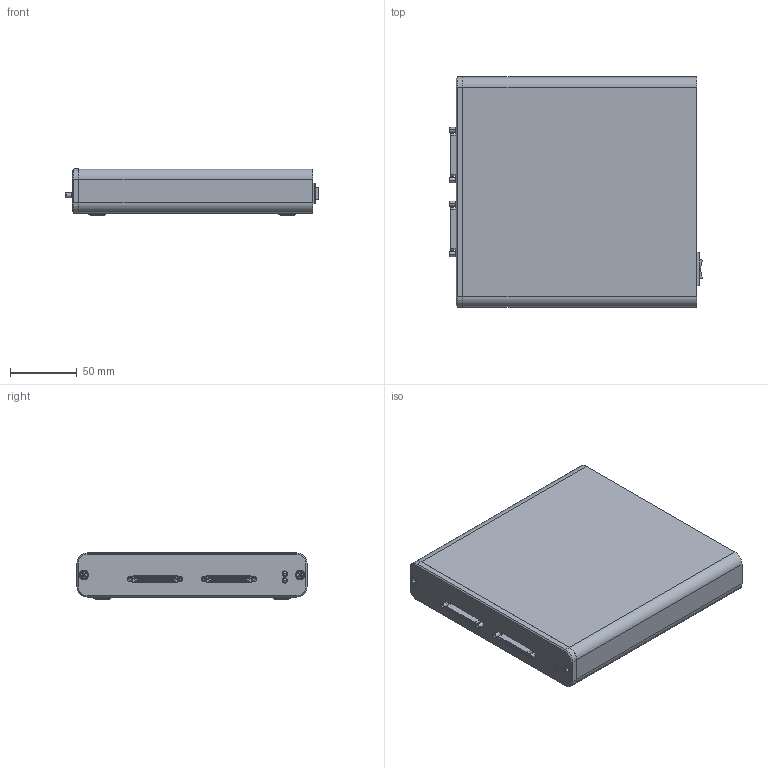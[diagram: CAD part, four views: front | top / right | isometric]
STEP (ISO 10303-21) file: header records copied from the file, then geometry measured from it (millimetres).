
FILE_DESCRIPTION((''),'2;1');
FILE_NAME('CU_USB-636X_MASS_TERM','2013-10-02T',('dkendric'),(''),'PRO/ENGINEER BY PARAMETRIC TECHNOLOGY CORPORATION, 2011490','PRO/ENGINEER BY PARAMETRIC TECHNOLOGY CORPORATION, 2011490','');
FILE_SCHEMA(('CONFIG_CONTROL_DESIGN'));
Products named in the file (1): CU_USB-636X_MASS_TERM
Bounding box: 189.65 x 172.81 x 34.59 mm (x, y, z)
Volume: 307471.1 mm3; surface area: 178867.6 mm2
Topology: 3 solids, 4 shells, 4644 faces, 12677 edges, 8312 vertices
Faces by surface type: plane 3574, cylinder 889, cone 79, bspline 49, torus 47, sphere 4, extrusion 2
Entity records: 152073 total; most frequent: CARTESIAN_POINT 32605, ORIENTED_EDGE 25298, DIRECTION 23530, EDGE_CURVE 12649, VECTOR 10494, LINE 10492, VERTEX_POINT 8312, AXIS2_PLACEMENT_3D 6518
